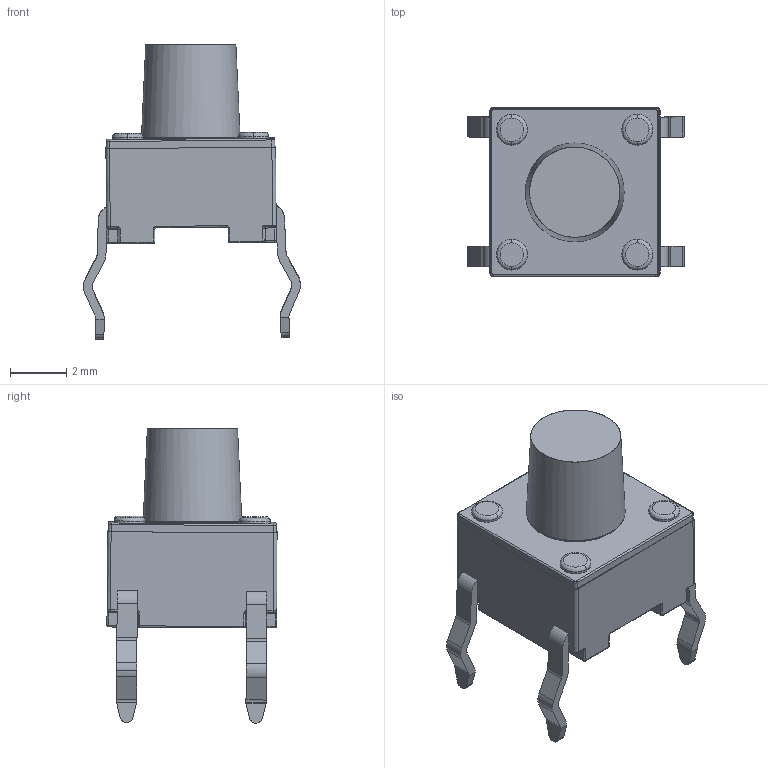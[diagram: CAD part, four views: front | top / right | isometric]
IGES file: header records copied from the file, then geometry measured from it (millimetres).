
Global section: file name: Filename.iges; native system: Open CASCADE 7.3; preprocessor: Open CASCADE IGES processor 7.3; date: 20210813.150516; units: millimetre
Bounding box: 7.69 x 6.03 x 10.44 mm (x, y, z)
Surface area: 253.4 mm2 (no closed solid volume)
Topology: 0 solids, 0 shells, 294 faces, 1410 edges, 1382 vertices
Faces by surface type: revolution 204, plane 90
